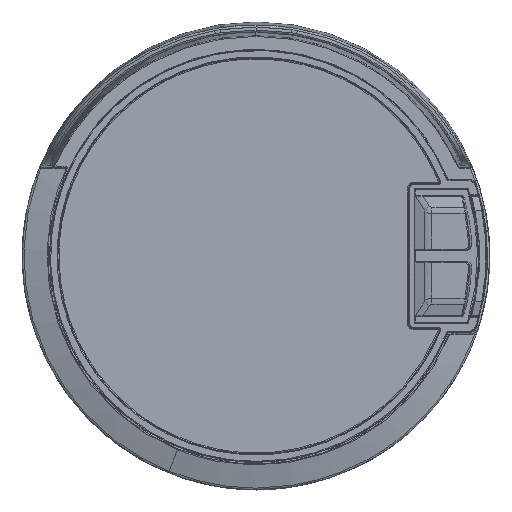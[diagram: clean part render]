
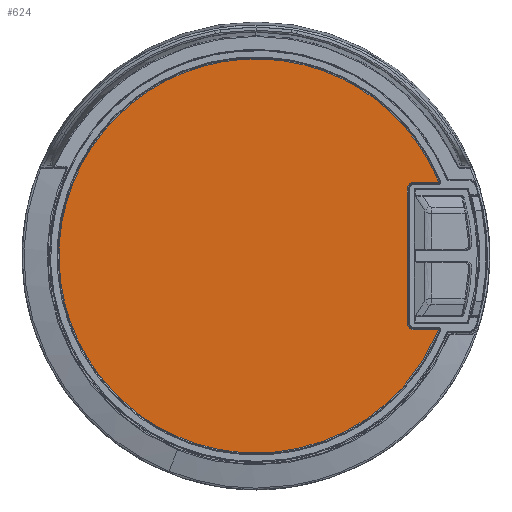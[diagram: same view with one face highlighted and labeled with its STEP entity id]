
A CAD part, top view. The second image highlights one B-rep face of the part: STEP entity #624.
In plain terms, the highlighted planar face has unit normal (0, 0, 1).
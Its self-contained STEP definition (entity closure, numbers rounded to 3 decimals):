
#624=ADVANCED_FACE('',(#1426),#11641,.T.);
#1426=FACE_OUTER_BOUND('',#2278,.T.);
#2278=EDGE_LOOP('',(#5061,#5062,#5063,#5064,#5065,#5066));
#5061=ORIENTED_EDGE('',*,*,#7617,.T.);
#5062=ORIENTED_EDGE('',*,*,#7621,.T.);
#5063=ORIENTED_EDGE('',*,*,#7654,.F.);
#5064=ORIENTED_EDGE('',*,*,#7628,.T.);
#5065=ORIENTED_EDGE('',*,*,#7660,.T.);
#5066=ORIENTED_EDGE('',*,*,#7613,.T.);
#7613=EDGE_CURVE('',#11048,#11046,#9834,.T.);
#7617=EDGE_CURVE('',#11046,#11051,#9837,.T.);
#7621=EDGE_CURVE('',#11051,#11053,#9839,.T.);
#7628=EDGE_CURVE('',#11055,#11059,#9845,.T.);
#7654=EDGE_CURVE('',#11055,#11053,#9862,.T.);
#7660=EDGE_CURVE('',#11059,#11048,#9868,.T.);
#9834=B_SPLINE_CURVE_WITH_KNOTS('',1,(#46945,#46946),.UNSPECIFIED.,.F.,
 .F.,(2,2),(-35.266,0.),.UNSPECIFIED.);
#9837=B_SPLINE_CURVE_WITH_KNOTS('',3,(#46959,#46960,#46961,#46962,#46963,
#46964,#46965),.UNSPECIFIED.,.F.,.F.,(4,1,1,1,4),(-7.068,-6.361,
-5.655,-4.948,-4.242),.UNSPECIFIED.);
#9839=B_SPLINE_CURVE_WITH_KNOTS('',1,(#46974,#46975),.UNSPECIFIED.,.F.,
 .F.,(2,2),(-6.419,0.),.UNSPECIFIED.);
#9845=B_SPLINE_CURVE_WITH_KNOTS('',1,(#47015,#47016),.UNSPECIFIED.,.F.,
 .F.,(2,2),(-6.419,0.),.UNSPECIFIED.);
#9862=B_SPLINE_CURVE_WITH_KNOTS('',3,(#47122,#47123,#47124,#47125,#47126,
#47127,#47128,#47129,#47130,#47131,#47132,#47133,#47134,#47135,#47136,#47137,
#47138,#47139,#47140,#47141,#47142),.UNSPECIFIED.,.F.,.F.,(4,1,1,1,1,1,
1,1,1,1,1,1,1,1,1,1,1,1,4),(0.,17.869,26.837,35.805,
53.674,71.543,89.412,107.281,125.15,
143.019,160.888,178.757,196.626,214.495,
232.364,250.233,259.201,268.169,286.038),
 .UNSPECIFIED.);
#9868=B_SPLINE_CURVE_WITH_KNOTS('',3,(#47193,#47194,#47195,#47196,#47197,
#47198,#47199,#47200,#47201,#47202,#47203,#47204,#47205,#47206,#47207,#47208,
#47209,#47210,#47211,#47212,#47213,#47214,#47215,#47216,#47217,#47218,#47219,
#47220,#47221,#47222,#47223),.UNSPECIFIED.,.F.,.F.,(4,1,1,1,1,1,1,1,1,1,
1,1,1,1,1,1,1,1,1,1,1,1,1,1,1,1,1,1,4),(-7.068,-6.967,
-6.866,-6.765,-6.664,-6.563,
-6.462,-6.361,-6.26,-6.16,-6.059,
-5.958,-5.857,-5.756,-5.655,
-5.554,-5.453,-5.352,-5.251,
-5.15,-5.049,-4.948,-4.847,
-4.746,-4.645,-4.545,-4.444,
-4.343,-4.242),.UNSPECIFIED.);
#11046=VERTEX_POINT('',#39771);
#11048=VERTEX_POINT('',#39773);
#11051=VERTEX_POINT('',#39776);
#11053=VERTEX_POINT('',#39778);
#11055=VERTEX_POINT('',#39780);
#11059=VERTEX_POINT('',#39784);
#11641=PLANE('',#12463);
#12463=AXIS2_PLACEMENT_3D('',#36172,#12712,$);
#12712=DIRECTION('',(0.,0.,1.));
#36172=CARTESIAN_POINT('',(-52.864,52.902,7.));
#39771=CARTESIAN_POINT('',(39.868,17.633,7.));
#39773=CARTESIAN_POINT('',(39.868,-17.633,7.));
#39776=CARTESIAN_POINT('',(41.667,19.432,7.));
#39778=CARTESIAN_POINT('',(48.087,19.432,7.));
#39780=CARTESIAN_POINT('',(48.087,-19.432,7.));
#39784=CARTESIAN_POINT('',(41.667,-19.432,7.));
#46945=CARTESIAN_POINT('',(39.868,-17.633,7.));
#46946=CARTESIAN_POINT('',(39.868,17.633,7.));
#46959=CARTESIAN_POINT('',(39.868,17.633,7.));
#46960=CARTESIAN_POINT('',(39.868,17.867,7.));
#46961=CARTESIAN_POINT('',(39.961,18.34,7.));
#46962=CARTESIAN_POINT('',(40.362,18.938,7.));
#46963=CARTESIAN_POINT('',(40.96,19.339,7.));
#46964=CARTESIAN_POINT('',(41.433,19.432,7.));
#46965=CARTESIAN_POINT('',(41.667,19.432,7.));
#46974=CARTESIAN_POINT('',(41.667,19.432,7.));
#46975=CARTESIAN_POINT('',(48.087,19.432,7.));
#47015=CARTESIAN_POINT('',(48.087,-19.432,7.));
#47016=CARTESIAN_POINT('',(41.667,-19.432,7.));
#47122=CARTESIAN_POINT('',(48.087,-19.432,7.));
#47123=CARTESIAN_POINT('',(45.865,-24.93,7.));
#47124=CARTESIAN_POINT('',(41.038,-32.689,7.));
#47125=CARTESIAN_POINT('',(32.355,-40.861,7.));
#47126=CARTESIAN_POINT('',(22.4,-47.443,7.));
#47127=CARTESIAN_POINT('',(8.04,-52.29,7.));
#47128=CARTESIAN_POINT('',(-10.095,-51.928,7.));
#47129=CARTESIAN_POINT('',(-27.05,-45.464,7.));
#47130=CARTESIAN_POINT('',(-40.821,-33.649,7.));
#47131=CARTESIAN_POINT('',(-49.79,-17.876,7.));
#47132=CARTESIAN_POINT('',(-52.902,0.,7.));
#47133=CARTESIAN_POINT('',(-49.79,17.876,7.));
#47134=CARTESIAN_POINT('',(-40.821,33.649,7.));
#47135=CARTESIAN_POINT('',(-27.05,45.464,7.));
#47136=CARTESIAN_POINT('',(-10.095,51.928,7.));
#47137=CARTESIAN_POINT('',(8.04,52.29,7.));
#47138=CARTESIAN_POINT('',(22.4,47.443,7.));
#47139=CARTESIAN_POINT('',(32.355,40.861,7.));
#47140=CARTESIAN_POINT('',(41.038,32.689,7.));
#47141=CARTESIAN_POINT('',(45.865,24.93,7.));
#47142=CARTESIAN_POINT('',(48.087,19.432,7.));
#47193=CARTESIAN_POINT('',(41.667,-19.432,7.));
#47194=CARTESIAN_POINT('',(41.633,-19.432,7.));
#47195=CARTESIAN_POINT('',(41.566,-19.43,7.));
#47196=CARTESIAN_POINT('',(41.466,-19.422,7.));
#47197=CARTESIAN_POINT('',(41.366,-19.408,7.));
#47198=CARTESIAN_POINT('',(41.266,-19.388,7.));
#47199=CARTESIAN_POINT('',(41.169,-19.363,7.));
#47200=CARTESIAN_POINT('',(41.072,-19.332,7.));
#47201=CARTESIAN_POINT('',(40.978,-19.296,7.));
#47202=CARTESIAN_POINT('',(40.886,-19.255,7.));
#47203=CARTESIAN_POINT('',(40.796,-19.209,7.));
#47204=CARTESIAN_POINT('',(40.709,-19.157,7.));
#47205=CARTESIAN_POINT('',(40.625,-19.101,7.));
#47206=CARTESIAN_POINT('',(40.545,-19.04,7.));
#47207=CARTESIAN_POINT('',(40.467,-18.975,7.));
#47208=CARTESIAN_POINT('',(40.394,-18.906,7.));
#47209=CARTESIAN_POINT('',(40.325,-18.833,7.));
#47210=CARTESIAN_POINT('',(40.26,-18.755,7.));
#47211=CARTESIAN_POINT('',(40.199,-18.675,7.));
#47212=CARTESIAN_POINT('',(40.143,-18.591,7.));
#47213=CARTESIAN_POINT('',(40.091,-18.504,7.));
#47214=CARTESIAN_POINT('',(40.045,-18.414,7.));
#47215=CARTESIAN_POINT('',(40.004,-18.322,7.));
#47216=CARTESIAN_POINT('',(39.968,-18.228,7.));
#47217=CARTESIAN_POINT('',(39.937,-18.131,7.));
#47218=CARTESIAN_POINT('',(39.912,-18.034,7.));
#47219=CARTESIAN_POINT('',(39.892,-17.934,7.));
#47220=CARTESIAN_POINT('',(39.878,-17.834,7.));
#47221=CARTESIAN_POINT('',(39.87,-17.734,7.));
#47222=CARTESIAN_POINT('',(39.868,-17.667,7.));
#47223=CARTESIAN_POINT('',(39.868,-17.633,7.));
